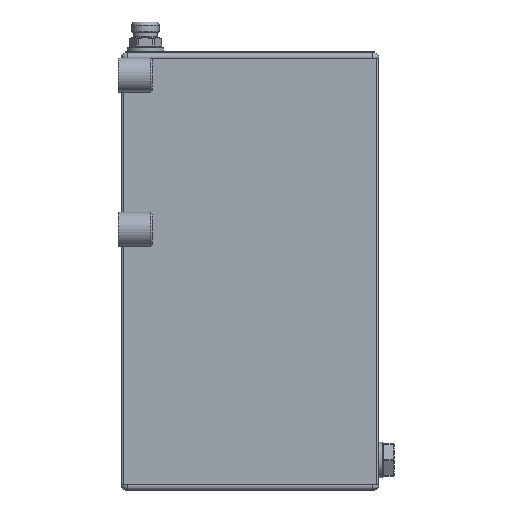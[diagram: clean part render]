
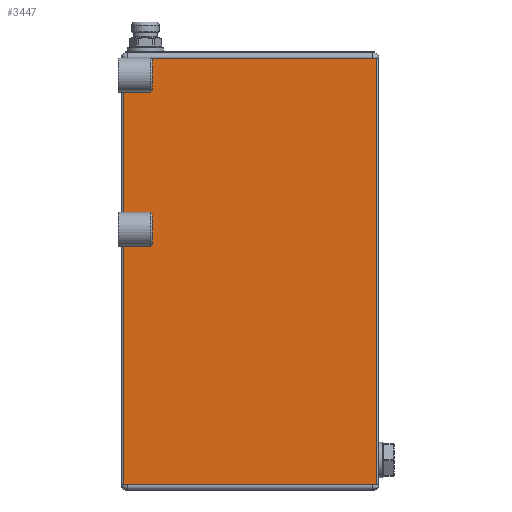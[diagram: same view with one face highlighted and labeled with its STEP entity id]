
A CAD part, front view. The second image highlights one B-rep face of the part: STEP entity #3447.
In plain terms, the highlighted planar face has unit normal (0, -1, 0).
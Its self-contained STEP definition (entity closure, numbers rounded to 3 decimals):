
#481=FACE_OUTER_BOUND('',#694,.T.);
#694=EDGE_LOOP('',(#2680,#2681,#2682,#2683));
#950=LINE('',#5854,#1196);
#951=LINE('',#5858,#1197);
#952=LINE('',#5860,#1198);
#953=LINE('',#5861,#1199);
#1196=VECTOR('',#4664,10.);
#1197=VECTOR('',#4669,10.);
#1198=VECTOR('',#4670,10.);
#1199=VECTOR('',#4671,10.);
#1666=VERTEX_POINT('',#5851);
#1667=VERTEX_POINT('',#5853);
#1668=VERTEX_POINT('',#5857);
#1669=VERTEX_POINT('',#5859);
#2039=EDGE_CURVE('',#1667,#1666,#950,.T.);
#2041=EDGE_CURVE('',#1666,#1668,#951,.T.);
#2042=EDGE_CURVE('',#1669,#1668,#952,.T.);
#2043=EDGE_CURVE('',#1669,#1667,#953,.T.);
#2680=ORIENTED_EDGE('',*,*,#2041,.T.);
#2681=ORIENTED_EDGE('',*,*,#2042,.F.);
#2682=ORIENTED_EDGE('',*,*,#2043,.T.);
#2683=ORIENTED_EDGE('',*,*,#2039,.T.);
#3302=PLANE('',#3952);
#3447=ADVANCED_FACE('',(#481),#3302,.T.);
#3952=AXIS2_PLACEMENT_3D('',#5856,#4667,#4668);
#4664=DIRECTION('',(0.,0.,1.));
#4667=DIRECTION('center_axis',(0.,-1.,0.));
#4668=DIRECTION('ref_axis',(0.,0.,-1.));
#4669=DIRECTION('',(-1.,0.,0.));
#4670=DIRECTION('',(0.,0.,1.));
#4671=DIRECTION('',(1.,0.,0.));
#5851=CARTESIAN_POINT('',(74.,-50.,249.));
#5853=CARTESIAN_POINT('',(74.,-50.,0.));
#5854=CARTESIAN_POINT('',(74.,-50.,0.));
#5856=CARTESIAN_POINT('Origin',(74.,-50.,0.));
#5857=CARTESIAN_POINT('',(-74.,-50.,249.));
#5858=CARTESIAN_POINT('',(-74.,-50.,249.));
#5859=CARTESIAN_POINT('',(-74.,-50.,0.));
#5860=CARTESIAN_POINT('',(-74.,-50.,0.));
#5861=CARTESIAN_POINT('',(-74.,-50.,0.));
